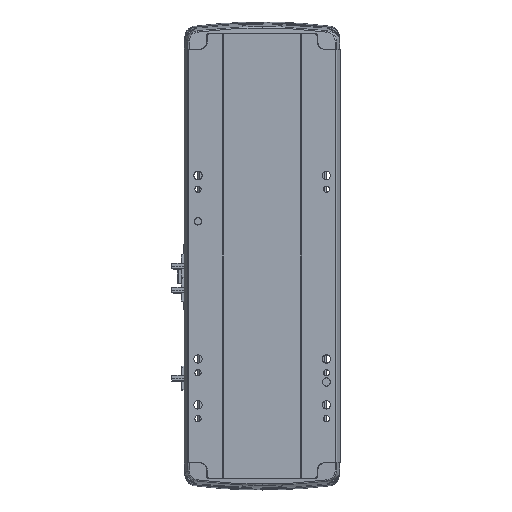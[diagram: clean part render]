
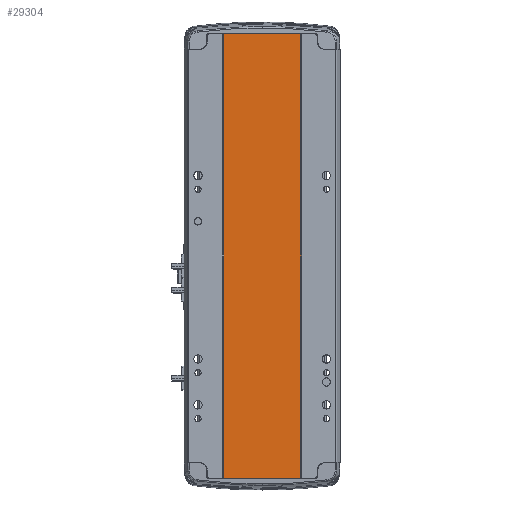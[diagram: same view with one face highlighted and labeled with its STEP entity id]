
A CAD part, front view. The second image highlights one B-rep face of the part: STEP entity #29304.
In plain terms, the highlighted planar face has unit normal (0, -1, 0).
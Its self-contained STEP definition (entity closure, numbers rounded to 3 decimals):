
#28 = ORIENTED_EDGE ( 'NONE', *, *, #2215, .F. ) ;
#223 = DIRECTION ( 'NONE',  ( -1., 0., 0. ) ) ;
#1995 = EDGE_CURVE ( 'NONE', #29430, #16619, #22524, .T. ) ;
#2166 = EDGE_CURVE ( 'NONE', #2841, #16619, #27199, .T. ) ;
#2215 = EDGE_CURVE ( 'NONE', #28404, #2841, #10256, .T. ) ;
#2257 = DIRECTION ( 'NONE',  ( 1., 0., 0. ) ) ;
#2841 = VERTEX_POINT ( 'NONE', #30911 ) ;
#8285 = CARTESIAN_POINT ( 'NONE',  ( 41.793, 0.998, 484.5 ) ) ;
#9250 = VECTOR ( 'NONE', #24273, 1000. ) ;
#9530 = CARTESIAN_POINT ( 'NONE',  ( -41.791, 1., 484.5 ) ) ;
#10256 = LINE ( 'NONE', #23130, #39004 ) ;
#12643 = AXIS2_PLACEMENT_3D ( 'NONE', #15414, #23990, #223 ) ;
#13565 = DIRECTION ( 'NONE',  ( 1., 0., 0. ) ) ;
#14020 = VECTOR ( 'NONE', #14342, 1000. ) ;
#14342 = DIRECTION ( 'NONE',  ( 0., 0., -1. ) ) ;
#15414 = CARTESIAN_POINT ( 'NONE',  ( 0., 0.999, 484.5 ) ) ;
#16352 = EDGE_LOOP ( 'NONE', ( #37104, #21311, #28, #37072 ) ) ;
#16394 = EDGE_CURVE ( 'NONE', #28404, #29430, #23850, .T. ) ;
#16619 = VERTEX_POINT ( 'NONE', #23204 ) ;
#20660 = CARTESIAN_POINT ( 'NONE',  ( -41.791, 1., 484.5 ) ) ;
#21311 = ORIENTED_EDGE ( 'NONE', *, *, #2166, .F. ) ;
#22524 = LINE ( 'NONE', #25537, #25795 ) ;
#23130 = CARTESIAN_POINT ( 'NONE',  ( 0., 0.999, 484.5 ) ) ;
#23204 = CARTESIAN_POINT ( 'NONE',  ( 41.793, 0.998, 0. ) ) ;
#23850 = LINE ( 'NONE', #9530, #9250 ) ;
#23990 = DIRECTION ( 'NONE',  ( 0., 1., 0. ) ) ;
#24273 = DIRECTION ( 'NONE',  ( 0., 0., -1. ) ) ;
#24378 = PLANE ( 'NONE',  #12643 ) ;
#24505 = CARTESIAN_POINT ( 'NONE',  ( -41.791, 1., 0. ) ) ;
#25537 = CARTESIAN_POINT ( 'NONE',  ( 0., 0.999, 0. ) ) ;
#25795 = VECTOR ( 'NONE', #13565, 1000. ) ;
#27199 = LINE ( 'NONE', #8285, #14020 ) ;
#28404 = VERTEX_POINT ( 'NONE', #20660 ) ;
#29304 = ADVANCED_FACE ( 'NONE', ( #37168 ), #24378, .F. ) ;
#29430 = VERTEX_POINT ( 'NONE', #24505 ) ;
#30911 = CARTESIAN_POINT ( 'NONE',  ( 41.793, 0.998, 484.5 ) ) ;
#37072 = ORIENTED_EDGE ( 'NONE', *, *, #16394, .T. ) ;
#37104 = ORIENTED_EDGE ( 'NONE', *, *, #1995, .T. ) ;
#37168 = FACE_OUTER_BOUND ( 'NONE', #16352, .T. ) ;
#39004 = VECTOR ( 'NONE', #2257, 1000. ) ;
